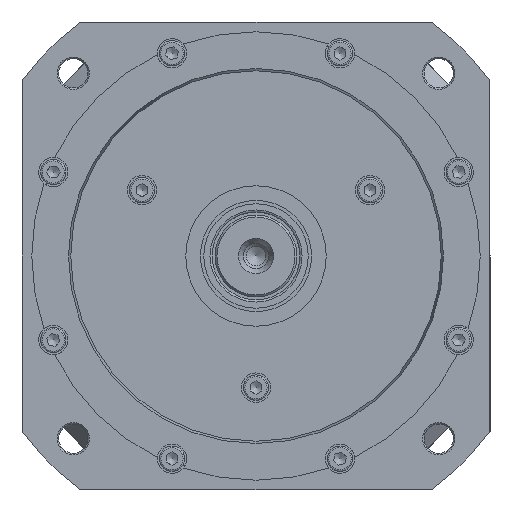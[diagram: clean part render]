
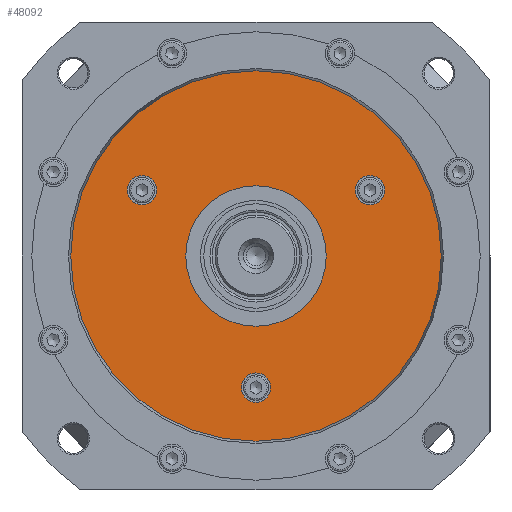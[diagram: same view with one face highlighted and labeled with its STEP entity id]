
A CAD part, left-side view. The second image highlights one B-rep face of the part: STEP entity #48092.
In plain terms, the highlighted planar face has unit normal (-1, 0, 0).
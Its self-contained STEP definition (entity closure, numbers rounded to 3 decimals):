
#11270=FACE_BOUND('',#16779,.T.);
#11271=FACE_BOUND('',#16780,.T.);
#11272=FACE_BOUND('',#16781,.T.);
#11273=FACE_BOUND('',#16782,.T.);
#13771=FACE_OUTER_BOUND('',#16778,.T.);
#16778=EDGE_LOOP('',(#43425));
#16779=EDGE_LOOP('',(#43426));
#16780=EDGE_LOOP('',(#43427));
#16781=EDGE_LOOP('',(#43428));
#16782=EDGE_LOOP('',(#43429));
#19640=CIRCLE('',#53467,7.5);
#19645=CIRCLE('',#53475,7.5);
#19650=CIRCLE('',#53483,7.5);
#19696=CIRCLE('',#53570,36.);
#19697=CIRCLE('',#53572,95.);
#23922=VERTEX_POINT('',#95640);
#23927=VERTEX_POINT('',#95657);
#23932=VERTEX_POINT('',#95674);
#23978=VERTEX_POINT('',#95856);
#23979=VERTEX_POINT('',#95860);
#30463=EDGE_CURVE('',#23922,#23922,#19640,.T.);
#30472=EDGE_CURVE('',#23927,#23927,#19645,.T.);
#30481=EDGE_CURVE('',#23932,#23932,#19650,.T.);
#30577=EDGE_CURVE('',#23978,#23978,#19696,.T.);
#30578=EDGE_CURVE('',#23979,#23979,#19697,.T.);
#43425=ORIENTED_EDGE('',*,*,#30578,.F.);
#43426=ORIENTED_EDGE('',*,*,#30463,.T.);
#43427=ORIENTED_EDGE('',*,*,#30472,.T.);
#43428=ORIENTED_EDGE('',*,*,#30481,.T.);
#43429=ORIENTED_EDGE('',*,*,#30577,.T.);
#45526=PLANE('',#53571);
#48092=ADVANCED_FACE('',(#13771,#11270,#11271,#11272,#11273),#45526,.T.);
#53467=AXIS2_PLACEMENT_3D('',#95641,#66132,#66133);
#53475=AXIS2_PLACEMENT_3D('',#95658,#66152,#66153);
#53483=AXIS2_PLACEMENT_3D('',#95675,#66172,#66173);
#53570=AXIS2_PLACEMENT_3D('',#95858,#66396,#66397);
#53571=AXIS2_PLACEMENT_3D('',#95859,#66398,#66399);
#53572=AXIS2_PLACEMENT_3D('',#95861,#66400,#66401);
#66132=DIRECTION('center_axis',(1.,0.,0.));
#66133=DIRECTION('ref_axis',(0.,-0.5,-0.866));
#66152=DIRECTION('center_axis',(1.,0.,0.));
#66153=DIRECTION('ref_axis',(0.,-0.5,0.866));
#66172=DIRECTION('center_axis',(1.,0.,0.));
#66173=DIRECTION('ref_axis',(0.,1.,0.));
#66396=DIRECTION('center_axis',(1.,0.,0.));
#66397=DIRECTION('ref_axis',(0.,1.,0.));
#66398=DIRECTION('center_axis',(-1.,0.,0.));
#66399=DIRECTION('ref_axis',(0.,-1.,0.));
#66400=DIRECTION('center_axis',(1.,0.,0.));
#66401=DIRECTION('ref_axis',(0.,1.,0.));
#95640=CARTESIAN_POINT('',(-253.9,-54.707,40.245));
#95641=CARTESIAN_POINT('Origin',(-253.9,-58.457,33.75));
#95657=CARTESIAN_POINT('',(-253.9,62.207,27.255));
#95658=CARTESIAN_POINT('Origin',(-253.9,58.457,33.75));
#95674=CARTESIAN_POINT('',(-253.9,-7.5,-67.5));
#95675=CARTESIAN_POINT('Origin',(-253.9,0.,-67.5));
#95856=CARTESIAN_POINT('',(-253.9,0.,-36.));
#95858=CARTESIAN_POINT('Origin',(-253.9,0.,0.));
#95859=CARTESIAN_POINT('Origin',(-253.9,0.,95.));
#95860=CARTESIAN_POINT('',(-253.9,0.,-95.));
#95861=CARTESIAN_POINT('Origin',(-253.9,0.,0.));
